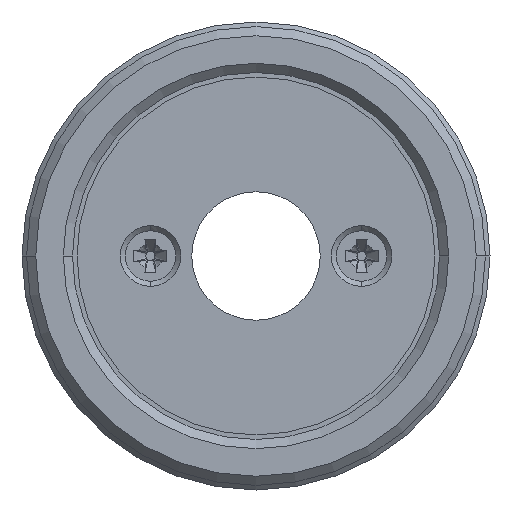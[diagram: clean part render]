
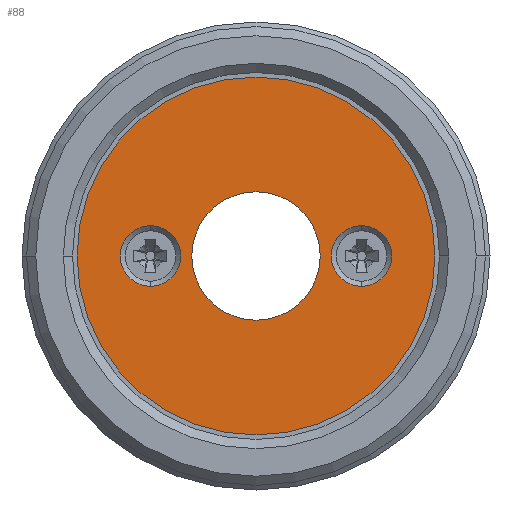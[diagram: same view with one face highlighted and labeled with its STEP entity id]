
A CAD part, front view. The second image highlights one B-rep face of the part: STEP entity #88.
In plain terms, the highlighted planar face has unit normal (0, -1, 0).
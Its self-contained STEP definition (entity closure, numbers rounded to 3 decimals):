
#11 = ORIENTED_EDGE ( 'NONE', *, *, #2922, .T. ) ;
#14 = DIRECTION ( 'NONE',  ( 0., 0., 1. ) ) ;
#54 = CARTESIAN_POINT ( 'NONE',  ( 0., 0., 0. ) ) ;
#88 = ADVANCED_FACE ( 'NONE', ( #654, #2910, #3579, #2999 ), #1277, .F. ) ;
#106 = CIRCLE ( 'NONE', #2774, 3.3 ) ;
#132 = CARTESIAN_POINT ( 'NONE',  ( 0., 0., 19.5 ) ) ;
#154 = ORIENTED_EDGE ( 'NONE', *, *, #1030, .T. ) ;
#175 = ORIENTED_EDGE ( 'NONE', *, *, #862, .T. ) ;
#215 = CARTESIAN_POINT ( 'NONE',  ( 0., 0., -19.5 ) ) ;
#320 = AXIS2_PLACEMENT_3D ( 'NONE', #417, #2384, #687 ) ;
#341 = DIRECTION ( 'NONE',  ( 0., 1., 0. ) ) ;
#342 = DIRECTION ( 'NONE',  ( 0., 0., 1. ) ) ;
#417 = CARTESIAN_POINT ( 'NONE',  ( 0., 0., 0. ) ) ;
#502 = DIRECTION ( 'NONE',  ( 0., 1., 0. ) ) ;
#532 = EDGE_LOOP ( 'NONE', ( #2075, #3285 ) ) ;
#557 = CIRCLE ( 'NONE', #1338, 3.3 ) ;
#654 = FACE_BOUND ( 'NONE', #1578, .T. ) ;
#678 = CIRCLE ( 'NONE', #1650, 19.5 ) ;
#687 = DIRECTION ( 'NONE',  ( 0., 0., 1. ) ) ;
#777 = CARTESIAN_POINT ( 'NONE',  ( 11.5, 0., 0. ) ) ;
#853 = CARTESIAN_POINT ( 'NONE',  ( -11.5, 0., 3.3 ) ) ;
#862 = EDGE_CURVE ( 'NONE', #2478, #992, #1963, .T. ) ;
#876 = VERTEX_POINT ( 'NONE', #132 ) ;
#992 = VERTEX_POINT ( 'NONE', #2462 ) ;
#1015 = CIRCLE ( 'NONE', #2733, 3.3 ) ;
#1030 = EDGE_CURVE ( 'NONE', #2004, #2216, #106, .T. ) ;
#1059 = DIRECTION ( 'NONE',  ( 0., 0., 1. ) ) ;
#1097 = CARTESIAN_POINT ( 'NONE',  ( 11.5, 0., 3.3 ) ) ;
#1114 = ORIENTED_EDGE ( 'NONE', *, *, #3645, .T. ) ;
#1277 = PLANE ( 'NONE',  #2983 ) ;
#1320 = DIRECTION ( 'NONE',  ( 0., 1., 0. ) ) ;
#1338 = AXIS2_PLACEMENT_3D ( 'NONE', #3391, #1709, #14 ) ;
#1340 = EDGE_CURVE ( 'NONE', #1557, #1463, #1649, .T. ) ;
#1463 = VERTEX_POINT ( 'NONE', #3561 ) ;
#1489 = CIRCLE ( 'NONE', #1581, 7. ) ;
#1557 = VERTEX_POINT ( 'NONE', #853 ) ;
#1564 = CARTESIAN_POINT ( 'NONE',  ( 0., 0., 0. ) ) ;
#1570 = DIRECTION ( 'NONE',  ( 0., 1., 0. ) ) ;
#1578 = EDGE_LOOP ( 'NONE', ( #154, #11 ) ) ;
#1581 = AXIS2_PLACEMENT_3D ( 'NONE', #54, #2026, #342 ) ;
#1639 = ORIENTED_EDGE ( 'NONE', *, *, #3424, .F. ) ;
#1649 = CIRCLE ( 'NONE', #3274, 3.3 ) ;
#1650 = AXIS2_PLACEMENT_3D ( 'NONE', #3260, #1570, #3543 ) ;
#1709 = DIRECTION ( 'NONE',  ( 0., 1., 0. ) ) ;
#1820 = DIRECTION ( 'NONE',  ( 0., 1., 0. ) ) ;
#1840 = CARTESIAN_POINT ( 'NONE',  ( 0., 0., -7. ) ) ;
#1847 = DIRECTION ( 'NONE',  ( 0., 0., 1. ) ) ;
#1963 = CIRCLE ( 'NONE', #320, 7. ) ;
#2004 = VERTEX_POINT ( 'NONE', #3547 ) ;
#2025 = CARTESIAN_POINT ( 'NONE',  ( -11.5, 0., 0. ) ) ;
#2026 = DIRECTION ( 'NONE',  ( 0., 1., 0. ) ) ;
#2075 = ORIENTED_EDGE ( 'NONE', *, *, #3131, .T. ) ;
#2195 = CARTESIAN_POINT ( 'NONE',  ( 11.5, 0., 0. ) ) ;
#2216 = VERTEX_POINT ( 'NONE', #1097 ) ;
#2310 = DIRECTION ( 'NONE',  ( 0., 0., 1. ) ) ;
#2384 = DIRECTION ( 'NONE',  ( 0., 1., 0. ) ) ;
#2405 = AXIS2_PLACEMENT_3D ( 'NONE', #3004, #1320, #3294 ) ;
#2462 = CARTESIAN_POINT ( 'NONE',  ( 0., 0., 7. ) ) ;
#2474 = DIRECTION ( 'NONE',  ( 0., 0., 1. ) ) ;
#2478 = VERTEX_POINT ( 'NONE', #1840 ) ;
#2721 = EDGE_LOOP ( 'NONE', ( #1639, #3181 ) ) ;
#2733 = AXIS2_PLACEMENT_3D ( 'NONE', #777, #2757, #1059 ) ;
#2757 = DIRECTION ( 'NONE',  ( 0., 1., 0. ) ) ;
#2774 = AXIS2_PLACEMENT_3D ( 'NONE', #2195, #502, #2474 ) ;
#2910 = FACE_BOUND ( 'NONE', #532, .T. ) ;
#2922 = EDGE_CURVE ( 'NONE', #2216, #2004, #1015, .T. ) ;
#2983 = AXIS2_PLACEMENT_3D ( 'NONE', #1564, #1820, #1847 ) ;
#2999 = FACE_BOUND ( 'NONE', #3152, .T. ) ;
#3004 = CARTESIAN_POINT ( 'NONE',  ( 0., 0., 0. ) ) ;
#3131 = EDGE_CURVE ( 'NONE', #1463, #1557, #557, .T. ) ;
#3152 = EDGE_LOOP ( 'NONE', ( #175, #1114 ) ) ;
#3181 = ORIENTED_EDGE ( 'NONE', *, *, #3344, .F. ) ;
#3260 = CARTESIAN_POINT ( 'NONE',  ( 0., 0., 0. ) ) ;
#3274 = AXIS2_PLACEMENT_3D ( 'NONE', #2025, #341, #2310 ) ;
#3285 = ORIENTED_EDGE ( 'NONE', *, *, #1340, .T. ) ;
#3294 = DIRECTION ( 'NONE',  ( 0., 0., 1. ) ) ;
#3344 = EDGE_CURVE ( 'NONE', #876, #3462, #678, .T. ) ;
#3391 = CARTESIAN_POINT ( 'NONE',  ( -11.5, 0., 0. ) ) ;
#3424 = EDGE_CURVE ( 'NONE', #3462, #876, #3515, .T. ) ;
#3462 = VERTEX_POINT ( 'NONE', #215 ) ;
#3515 = CIRCLE ( 'NONE', #2405, 19.5 ) ;
#3543 = DIRECTION ( 'NONE',  ( 0., 0., 1. ) ) ;
#3547 = CARTESIAN_POINT ( 'NONE',  ( 11.5, 0., -3.3 ) ) ;
#3561 = CARTESIAN_POINT ( 'NONE',  ( -11.5, 0., -3.3 ) ) ;
#3579 = FACE_OUTER_BOUND ( 'NONE', #2721, .T. ) ;
#3645 = EDGE_CURVE ( 'NONE', #992, #2478, #1489, .T. ) ;
